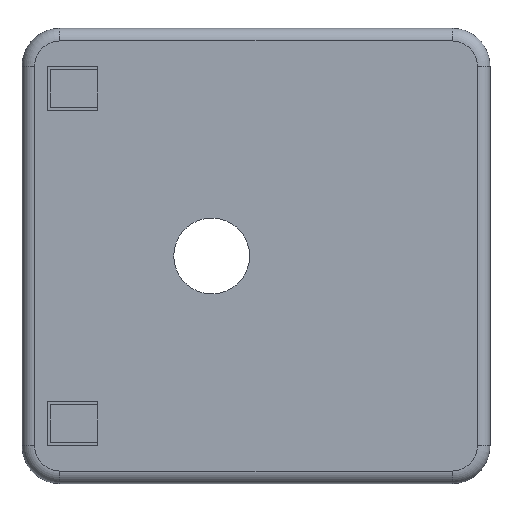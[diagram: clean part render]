
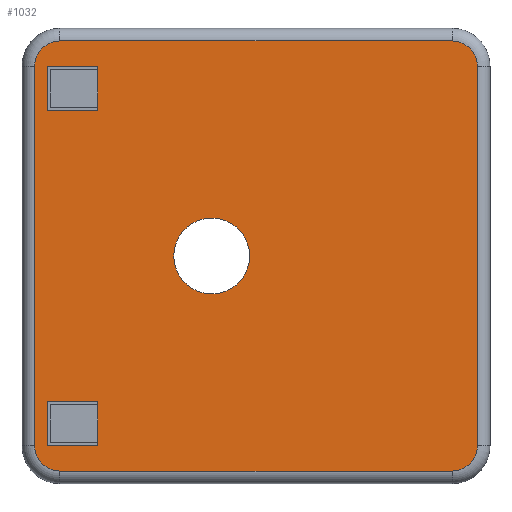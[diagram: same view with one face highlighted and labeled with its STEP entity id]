
A CAD part, front view. The second image highlights one B-rep face of the part: STEP entity #1032.
In plain terms, the highlighted planar face has unit normal (0, -1, 0).
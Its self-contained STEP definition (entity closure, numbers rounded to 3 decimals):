
#15=FACE_BOUND('',#155,.T.);
#16=FACE_BOUND('',#156,.T.);
#17=FACE_BOUND('',#157,.T.);
#34=CIRCLE('',#1081,4.);
#40=CIRCLE('',#1089,4.);
#44=CIRCLE('',#1095,4.);
#48=CIRCLE('',#1101,4.);
#51=CIRCLE('',#1110,6.);
#97=FACE_OUTER_BOUND('',#154,.T.);
#154=EDGE_LOOP('',(#806,#807,#808,#809,#810,#811,#812,#813));
#155=EDGE_LOOP('',(#814,#815,#816,#817));
#156=EDGE_LOOP('',(#818,#819,#820,#821));
#157=EDGE_LOOP('',(#822));
#202=LINE('',#1479,#320);
#205=LINE('',#1484,#323);
#207=LINE('',#1488,#325);
#209=LINE('',#1491,#327);
#226=LINE('',#1528,#344);
#229=LINE('',#1533,#347);
#231=LINE('',#1537,#349);
#233=LINE('',#1540,#351);
#235=LINE('',#1555,#353);
#237=LINE('',#1567,#355);
#239=LINE('',#1579,#357);
#240=LINE('',#1587,#358);
#320=VECTOR('',#1178,7.);
#323=VECTOR('',#1183,8.);
#325=VECTOR('',#1187,7.);
#327=VECTOR('',#1191,8.);
#344=VECTOR('',#1220,7.);
#347=VECTOR('',#1225,8.);
#349=VECTOR('',#1229,7.);
#351=VECTOR('',#1233,8.);
#353=VECTOR('',#1249,62.);
#355=VECTOR('',#1263,60.);
#357=VECTOR('',#1277,62.);
#358=VECTOR('',#1288,60.);
#434=VERTEX_POINT('',#1477);
#435=VERTEX_POINT('',#1478);
#436=VERTEX_POINT('',#1483);
#437=VERTEX_POINT('',#1487);
#450=VERTEX_POINT('',#1526);
#451=VERTEX_POINT('',#1527);
#452=VERTEX_POINT('',#1532);
#453=VERTEX_POINT('',#1536);
#455=VERTEX_POINT('',#1543);
#456=VERTEX_POINT('',#1545);
#458=VERTEX_POINT('',#1551);
#460=VERTEX_POINT('',#1557);
#462=VERTEX_POINT('',#1563);
#464=VERTEX_POINT('',#1569);
#466=VERTEX_POINT('',#1575);
#468=VERTEX_POINT('',#1581);
#479=VERTEX_POINT('',#1616);
#534=EDGE_CURVE('',#434,#435,#202,.T.);
#537=EDGE_CURVE('',#436,#434,#205,.T.);
#539=EDGE_CURVE('',#437,#436,#207,.T.);
#541=EDGE_CURVE('',#435,#437,#209,.T.);
#558=EDGE_CURVE('',#450,#451,#226,.T.);
#561=EDGE_CURVE('',#451,#452,#229,.T.);
#563=EDGE_CURVE('',#452,#453,#231,.T.);
#565=EDGE_CURVE('',#453,#450,#233,.T.);
#567=EDGE_CURVE('',#455,#456,#34,.T.);
#572=EDGE_CURVE('',#456,#458,#235,.T.);
#575=EDGE_CURVE('',#458,#460,#40,.T.);
#578=EDGE_CURVE('',#460,#462,#237,.T.);
#581=EDGE_CURVE('',#462,#464,#44,.T.);
#584=EDGE_CURVE('',#464,#466,#239,.T.);
#587=EDGE_CURVE('',#466,#468,#48,.T.);
#588=EDGE_CURVE('',#468,#455,#240,.T.);
#603=EDGE_CURVE('',#479,#479,#51,.T.);
#806=ORIENTED_EDGE('',*,*,#567,.F.);
#807=ORIENTED_EDGE('',*,*,#588,.F.);
#808=ORIENTED_EDGE('',*,*,#587,.F.);
#809=ORIENTED_EDGE('',*,*,#584,.F.);
#810=ORIENTED_EDGE('',*,*,#581,.F.);
#811=ORIENTED_EDGE('',*,*,#578,.F.);
#812=ORIENTED_EDGE('',*,*,#575,.F.);
#813=ORIENTED_EDGE('',*,*,#572,.F.);
#814=ORIENTED_EDGE('',*,*,#534,.T.);
#815=ORIENTED_EDGE('',*,*,#541,.T.);
#816=ORIENTED_EDGE('',*,*,#539,.T.);
#817=ORIENTED_EDGE('',*,*,#537,.T.);
#818=ORIENTED_EDGE('',*,*,#558,.T.);
#819=ORIENTED_EDGE('',*,*,#561,.T.);
#820=ORIENTED_EDGE('',*,*,#563,.T.);
#821=ORIENTED_EDGE('',*,*,#565,.T.);
#822=ORIENTED_EDGE('',*,*,#603,.T.);
#982=PLANE('',#1109);
#1032=ADVANCED_FACE('',(#97,#15,#16,#17),#982,.T.);
#1081=AXIS2_PLACEMENT_3D('',#1546,#1238,#1239);
#1089=AXIS2_PLACEMENT_3D('',#1561,#1256,#1257);
#1095=AXIS2_PLACEMENT_3D('',#1573,#1270,#1271);
#1101=AXIS2_PLACEMENT_3D('',#1585,#1284,#1285);
#1109=AXIS2_PLACEMENT_3D('',#1615,#1313,#1314);
#1110=AXIS2_PLACEMENT_3D('',#1617,#1315,#1316);
#1178=DIRECTION('',(0.,0.,1.));
#1183=DIRECTION('',(-1.,0.,0.));
#1187=DIRECTION('',(0.,0.,-1.));
#1191=DIRECTION('',(1.,0.,0.));
#1220=DIRECTION('',(0.,0.,1.));
#1225=DIRECTION('',(1.,0.,0.));
#1229=DIRECTION('',(0.,0.,-1.));
#1233=DIRECTION('',(-1.,0.,0.));
#1238=DIRECTION('center_axis',(0.,1.,0.));
#1239=DIRECTION('ref_axis',(0.707,0.,-0.707));
#1249=DIRECTION('',(-1.,0.,0.));
#1256=DIRECTION('center_axis',(0.,1.,0.));
#1257=DIRECTION('ref_axis',(-0.707,0.,-0.707));
#1263=DIRECTION('',(0.,0.,1.));
#1270=DIRECTION('center_axis',(0.,1.,0.));
#1271=DIRECTION('ref_axis',(-0.707,0.,0.707));
#1277=DIRECTION('',(1.,0.,0.));
#1284=DIRECTION('center_axis',(0.,1.,0.));
#1285=DIRECTION('ref_axis',(0.707,0.,0.707));
#1288=DIRECTION('',(0.,0.,-1.));
#1313=DIRECTION('center_axis',(0.,-1.,0.));
#1314=DIRECTION('ref_axis',(0.,0.,-1.));
#1315=DIRECTION('center_axis',(0.,1.,0.));
#1316=DIRECTION('ref_axis',(1.,0.,0.));
#1477=CARTESIAN_POINT('',(-33.,-2.,23.));
#1478=CARTESIAN_POINT('',(-33.,-2.,30.));
#1479=CARTESIAN_POINT('',(-33.,-2.,11.5));
#1483=CARTESIAN_POINT('',(-25.,-2.,23.));
#1484=CARTESIAN_POINT('',(-12.5,-2.,23.));
#1487=CARTESIAN_POINT('',(-25.,-2.,30.));
#1488=CARTESIAN_POINT('',(-25.,-2.,15.));
#1491=CARTESIAN_POINT('',(-16.5,-2.,30.));
#1526=CARTESIAN_POINT('',(-33.,-2.,-30.));
#1527=CARTESIAN_POINT('',(-33.,-2.,-23.));
#1528=CARTESIAN_POINT('',(-33.,-2.,-11.5));
#1532=CARTESIAN_POINT('',(-25.,-2.,-23.));
#1533=CARTESIAN_POINT('',(-12.5,-2.,-23.));
#1536=CARTESIAN_POINT('',(-25.,-2.,-30.));
#1537=CARTESIAN_POINT('',(-25.,-2.,-15.));
#1540=CARTESIAN_POINT('',(-16.5,-2.,-30.));
#1543=CARTESIAN_POINT('',(35.,-2.,-30.));
#1545=CARTESIAN_POINT('',(31.,-2.,-34.));
#1546=CARTESIAN_POINT('Origin',(31.,-2.,-30.));
#1551=CARTESIAN_POINT('',(-31.,-2.,-34.));
#1555=CARTESIAN_POINT('',(-18.5,-2.,-34.));
#1557=CARTESIAN_POINT('',(-35.,-2.,-30.));
#1561=CARTESIAN_POINT('Origin',(-31.,-2.,-30.));
#1563=CARTESIAN_POINT('',(-35.,-2.,30.));
#1567=CARTESIAN_POINT('',(-35.,-2.,18.));
#1569=CARTESIAN_POINT('',(-31.,-2.,34.));
#1573=CARTESIAN_POINT('Origin',(-31.,-2.,30.));
#1575=CARTESIAN_POINT('',(31.,-2.,34.));
#1579=CARTESIAN_POINT('',(18.5,-2.,34.));
#1581=CARTESIAN_POINT('',(35.,-2.,30.));
#1585=CARTESIAN_POINT('Origin',(31.,-2.,30.));
#1587=CARTESIAN_POINT('',(35.,-2.,-18.));
#1615=CARTESIAN_POINT('Origin',(0.,-2.,0.));
#1616=CARTESIAN_POINT('',(-13.,-2.,0.));
#1617=CARTESIAN_POINT('Origin',(-7.,-2.,0.));
